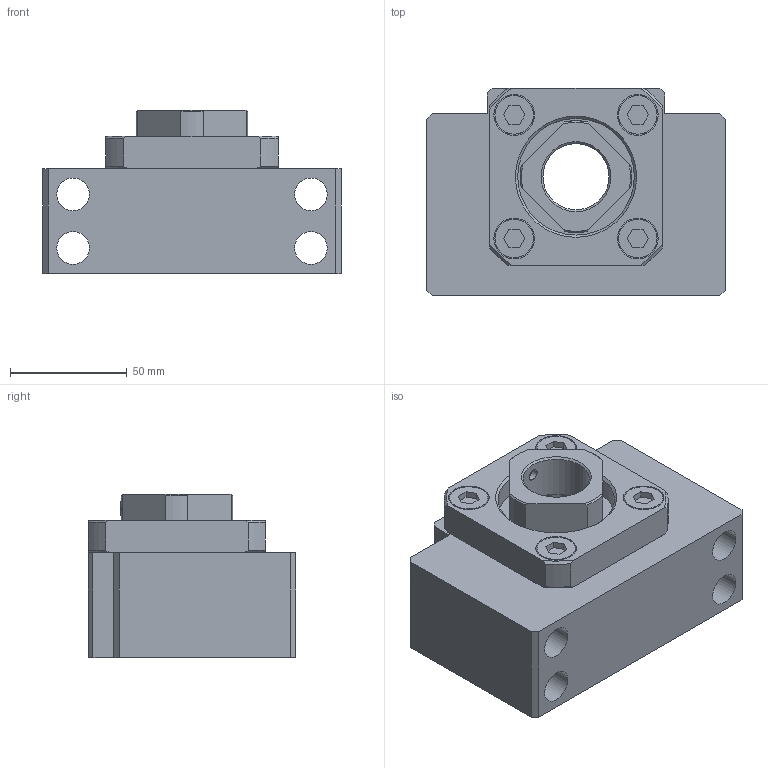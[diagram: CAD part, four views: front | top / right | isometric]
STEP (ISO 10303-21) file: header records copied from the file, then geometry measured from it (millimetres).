
FILE_DESCRIPTION(/* description */ ('STEP AP214'),/* implementation_level */ '2;1');
FILE_NAME(/* name */ 'BK30______CAD_NO_Yes',/* time_stamp */ '2026-09-17T13:00:46+02:00',/* author */ ('License CC BY-ND 4.0'),/* organization */ ('CADENAS'),/* preprocessor_version */ 'ST-DEVELOPER v20',/* originating_system */ 'PARTsolutions',/* authorisation */ ' ');
FILE_SCHEMA (('AUTOMOTIVE_DESIGN {1 0 10303 214 3 1 1}'));
Length unit declared in the file: millimetre
Products named in the file (4): BK30______CAD_NO_Yes; BK 30; BK 30collar; RN 30
Assembly tree (4 placements, depth 2):
  BK30______CAD_NO_Yes
    BK 30
    BK 30collar  x2
    RN 30
Bounding box: 128 x 89 x 70 mm (x, y, z)
Volume: 468813.7 mm3; surface area: 92450.1 mm2
Topology: 4 solids, 4 shells, 153 faces, 356 edges, 237 vertices
Faces by surface type: plane 94, cylinder 38, cone 21
Full cylindrical faces by diameter (mm): 4.917 x1, 6 x1, 14 x4, 16.5 x4, 17.5 x4, 20 x4, 28.376 x1, 30 x3, 37.3 x4, 39 x1, 50 x2, 50.1 x1
Entity records: 4267 total; most frequent: CARTESIAN_POINT 836, DIRECTION 678, ORIENTED_EDGE 626, EDGE_CURVE 313, AXIS2_PLACEMENT_3D 253, VERTEX_POINT 229, EDGE_LOOP 222, FACE_BOUND 222
